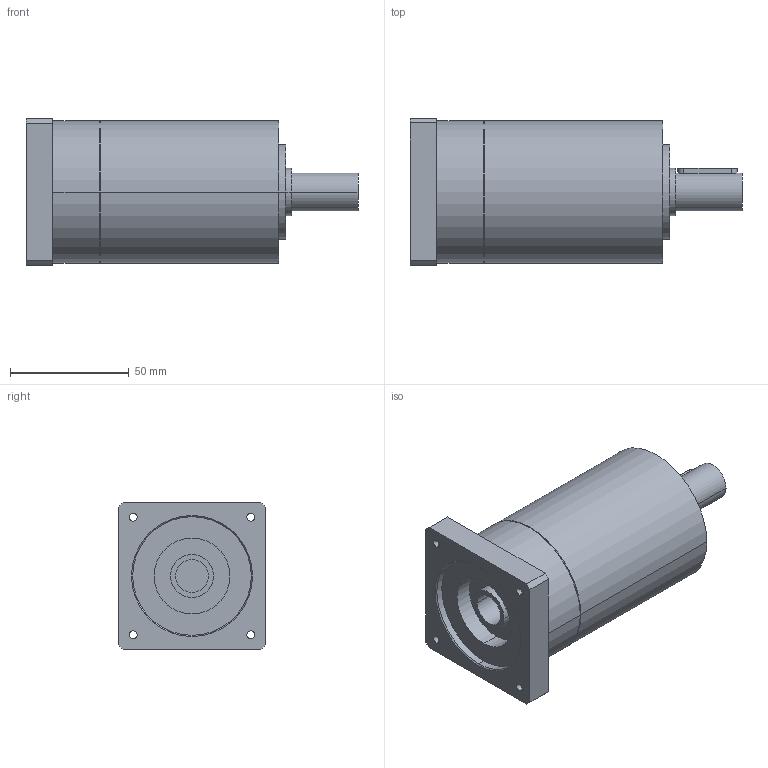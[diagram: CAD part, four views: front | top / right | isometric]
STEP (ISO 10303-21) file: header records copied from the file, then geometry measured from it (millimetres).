
FILE_DESCRIPTION(('CoCreate Modeling STEP Export'),'2;1');
FILE_NAME('GPR75_ig-9-12-16-20-24-30-36_16_B14_14_P31.stp','2014-08-25T16:03:40',(''),(''),'CoCreate Modeling STEP processor for AP214 (Solid Model)','CoCreate Modeling 16.00C 25-Feb-2009 (C) Parametric Technology GmbH','');
FILE_SCHEMA(('AUTOMOTIVE_DESIGN { 1 0 10303 214 1 1 1 1 }'));
Length unit declared in the file: millimetre
Products named in the file (2): GPR75_ig-9-12-16-20-24-30-36_16_B14_14_P31
Assembly tree (1 placements, depth 2):
  GPR75_ig-9-12-16-20-24-30-36_16_B14_14_P31
    GPR75_ig-9-12-16-20-24-30-36_16_B14_14_P31
Bounding box: 139.9 x 62 x 62 mm (x, y, z)
Volume: 304850.2 mm3; surface area: 34518.6 mm2
Topology: 1 solids, 1 shells, 72 faces, 194 edges, 136 vertices
Faces by surface type: cylinder 42, plane 22, cone 8
Entity records: 1989 total; most frequent: ORIENTED_EDGE 384, CARTESIAN_POINT 368, DIRECTION 268, EDGE_CURVE 192, VERTEX_POINT 136, AXIS2_PLACEMENT_3D 100, EDGE_LOOP 94, FACE_OUTER_BOUND 72
